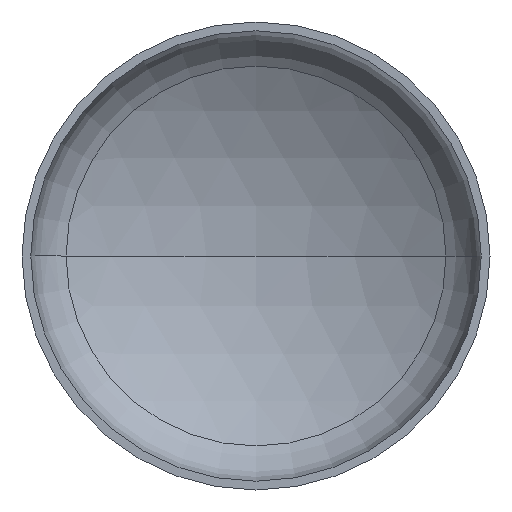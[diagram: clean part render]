
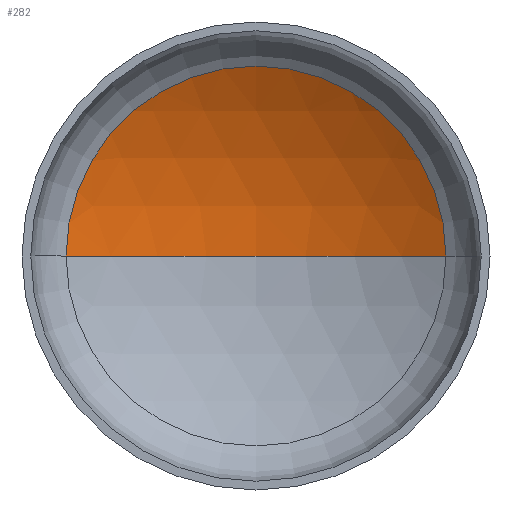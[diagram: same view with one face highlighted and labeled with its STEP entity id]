
A CAD part, front view. The second image highlights one B-rep face of the part: STEP entity #282.
In plain terms, the highlighted spherical face has radius 1360 mm.
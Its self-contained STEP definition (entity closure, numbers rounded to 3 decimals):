
#5 = DIRECTION ( 'NONE',  ( 1., 0., 0. ) ) ;
#7 = VERTEX_POINT ( 'NONE', #269 ) ;
#10 = DIRECTION ( 'NONE',  ( 0., -1., 0. ) ) ;
#13 = AXIS2_PLACEMENT_3D ( 'NONE', #247, #333, #112 ) ;
#18 = CARTESIAN_POINT ( 'NONE',  ( 0., 324.064, 0. ) ) ;
#25 = EDGE_LOOP ( 'NONE', ( #134, #140, #105 ) ) ;
#29 = AXIS2_PLACEMENT_3D ( 'NONE', #38, #395, #125 ) ;
#38 = CARTESIAN_POINT ( 'NONE',  ( 0., -847.964, 0. ) ) ;
#48 = AXIS2_PLACEMENT_3D ( 'NONE', #240, #239, #185 ) ;
#52 = AXIS2_PLACEMENT_3D ( 'NONE', #18, #10, #5 ) ;
#63 = VERTEX_POINT ( 'NONE', #249 ) ;
#105 = ORIENTED_EDGE ( 'NONE', *, *, #132, .T. ) ;
#112 = DIRECTION ( 'NONE',  ( 1., 0., 0. ) ) ;
#115 = FACE_OUTER_BOUND ( 'NONE', #25, .T. ) ;
#125 = DIRECTION ( 'NONE',  ( -1., 0., 0. ) ) ;
#132 = EDGE_CURVE ( 'NONE', #138, #7, #229, .T. ) ;
#134 = ORIENTED_EDGE ( 'NONE', *, *, #352, .F. ) ;
#138 = VERTEX_POINT ( 'NONE', #201 ) ;
#140 = ORIENTED_EDGE ( 'NONE', *, *, #163, .T. ) ;
#151 = CIRCLE ( 'NONE', #48, 1360. ) ;
#163 = EDGE_CURVE ( 'NONE', #63, #138, #151, .T. ) ;
#185 = DIRECTION ( 'NONE',  ( -1., 0., 0. ) ) ;
#201 = CARTESIAN_POINT ( 'NONE',  ( 689.891, 324.064, 0. ) ) ;
#229 = CIRCLE ( 'NONE', #52, 689.891 ) ;
#239 = DIRECTION ( 'NONE',  ( 0., 0., -1. ) ) ;
#240 = CARTESIAN_POINT ( 'NONE',  ( 0., -847.964, 0. ) ) ;
#247 = CARTESIAN_POINT ( 'NONE',  ( 0., -847.964, 0. ) ) ;
#249 = CARTESIAN_POINT ( 'NONE',  ( 0., 512.036, 0. ) ) ;
#269 = CARTESIAN_POINT ( 'NONE',  ( -689.891, 324.064, 0. ) ) ;
#282 = ADVANCED_FACE ( 'NONE', ( #115 ), #397, .F. ) ;
#333 = DIRECTION ( 'NONE',  ( 0., 0., 1. ) ) ;
#352 = EDGE_CURVE ( 'NONE', #63, #7, #375, .T. ) ;
#375 = CIRCLE ( 'NONE', #13, 1360. ) ;
#395 = DIRECTION ( 'NONE',  ( 0., 0., -1. ) ) ;
#397 = SPHERICAL_SURFACE ( 'NONE', #29, 1360. ) ;
